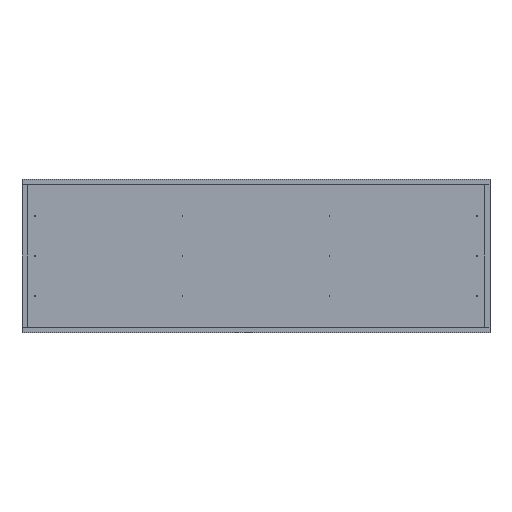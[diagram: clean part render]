
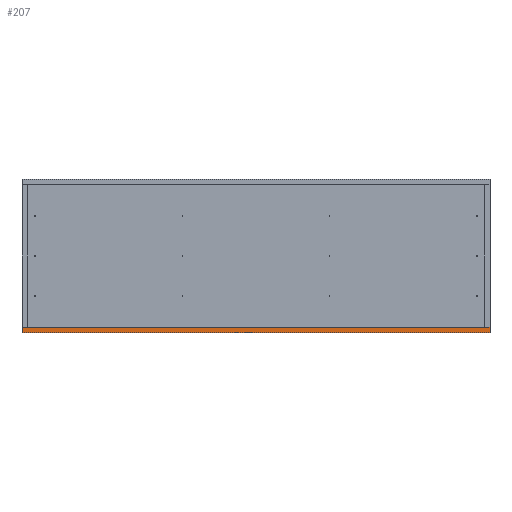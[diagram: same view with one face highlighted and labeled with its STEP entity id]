
A CAD part, left-side view. The second image highlights one B-rep face of the part: STEP entity #207.
In plain terms, the highlighted planar face has unit normal (-1, 0, 0).
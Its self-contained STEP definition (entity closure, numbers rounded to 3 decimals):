
#207 = ADVANCED_FACE('',(#208),#222,.F.);
#208 = FACE_BOUND('',#209,.F.);
#209 = EDGE_LOOP('',(#210,#245,#273,#301));
#210 = ORIENTED_EDGE('',*,*,#211,.F.);
#211 = EDGE_CURVE('',#212,#214,#216,.T.);
#212 = VERTEX_POINT('',#213);
#213 = CARTESIAN_POINT('',(0.,0.,0.));
#214 = VERTEX_POINT('',#215);
#215 = CARTESIAN_POINT('',(0.,0.,18.));
#216 = SURFACE_CURVE('',#217,(#221,#233),.PCURVE_S1.);
#217 = LINE('',#218,#219);
#218 = CARTESIAN_POINT('',(0.,0.,0.));
#219 = VECTOR('',#220,1.);
#220 = DIRECTION('',(0.,0.,1.));
#221 = PCURVE('',#222,#227);
#222 = PLANE('',#223);
#223 = AXIS2_PLACEMENT_3D('',#224,#225,#226);
#224 = CARTESIAN_POINT('',(0.,0.,0.));
#225 = DIRECTION('',(1.,0.,-0.));
#226 = DIRECTION('',(0.,0.,1.));
#227 = DEFINITIONAL_REPRESENTATION('',(#228),#232);
#228 = LINE('',#229,#230);
#229 = CARTESIAN_POINT('',(0.,0.));
#230 = VECTOR('',#231,1.);
#231 = DIRECTION('',(1.,0.));
#232 = ( GEOMETRIC_REPRESENTATION_CONTEXT(2) 
PARAMETRIC_REPRESENTATION_CONTEXT() REPRESENTATION_CONTEXT('2D SPACE',''
  ) );
#233 = PCURVE('',#234,#239);
#234 = PLANE('',#235);
#235 = AXIS2_PLACEMENT_3D('',#236,#237,#238);
#236 = CARTESIAN_POINT('',(0.,0.,0.));
#237 = DIRECTION('',(-0.,1.,0.));
#238 = DIRECTION('',(0.,0.,1.));
#239 = DEFINITIONAL_REPRESENTATION('',(#240),#244);
#240 = LINE('',#241,#242);
#241 = CARTESIAN_POINT('',(0.,0.));
#242 = VECTOR('',#243,1.);
#243 = DIRECTION('',(1.,0.));
#244 = ( GEOMETRIC_REPRESENTATION_CONTEXT(2) 
PARAMETRIC_REPRESENTATION_CONTEXT() REPRESENTATION_CONTEXT('2D SPACE',''
  ) );
#245 = ORIENTED_EDGE('',*,*,#246,.T.);
#246 = EDGE_CURVE('',#212,#247,#249,.T.);
#247 = VERTEX_POINT('',#248);
#248 = CARTESIAN_POINT('',(0.,1525.,0.));
#249 = SURFACE_CURVE('',#250,(#254,#261),.PCURVE_S1.);
#250 = LINE('',#251,#252);
#251 = CARTESIAN_POINT('',(0.,0.,0.));
#252 = VECTOR('',#253,1.);
#253 = DIRECTION('',(-0.,1.,0.));
#254 = PCURVE('',#222,#255);
#255 = DEFINITIONAL_REPRESENTATION('',(#256),#260);
#256 = LINE('',#257,#258);
#257 = CARTESIAN_POINT('',(0.,0.));
#258 = VECTOR('',#259,1.);
#259 = DIRECTION('',(0.,-1.));
#260 = ( GEOMETRIC_REPRESENTATION_CONTEXT(2) 
PARAMETRIC_REPRESENTATION_CONTEXT() REPRESENTATION_CONTEXT('2D SPACE',''
  ) );
#261 = PCURVE('',#262,#267);
#262 = PLANE('',#263);
#263 = AXIS2_PLACEMENT_3D('',#264,#265,#266);
#264 = CARTESIAN_POINT('',(0.,0.,0.));
#265 = DIRECTION('',(0.,0.,1.));
#266 = DIRECTION('',(1.,0.,-0.));
#267 = DEFINITIONAL_REPRESENTATION('',(#268),#272);
#268 = LINE('',#269,#270);
#269 = CARTESIAN_POINT('',(0.,0.));
#270 = VECTOR('',#271,1.);
#271 = DIRECTION('',(0.,1.));
#272 = ( GEOMETRIC_REPRESENTATION_CONTEXT(2) 
PARAMETRIC_REPRESENTATION_CONTEXT() REPRESENTATION_CONTEXT('2D SPACE',''
  ) );
#273 = ORIENTED_EDGE('',*,*,#274,.T.);
#274 = EDGE_CURVE('',#247,#275,#277,.T.);
#275 = VERTEX_POINT('',#276);
#276 = CARTESIAN_POINT('',(0.,1525.,18.));
#277 = SURFACE_CURVE('',#278,(#282,#289),.PCURVE_S1.);
#278 = LINE('',#279,#280);
#279 = CARTESIAN_POINT('',(0.,1525.,0.));
#280 = VECTOR('',#281,1.);
#281 = DIRECTION('',(0.,0.,1.));
#282 = PCURVE('',#222,#283);
#283 = DEFINITIONAL_REPRESENTATION('',(#284),#288);
#284 = LINE('',#285,#286);
#285 = CARTESIAN_POINT('',(0.,-1525.));
#286 = VECTOR('',#287,1.);
#287 = DIRECTION('',(1.,0.));
#288 = ( GEOMETRIC_REPRESENTATION_CONTEXT(2) 
PARAMETRIC_REPRESENTATION_CONTEXT() REPRESENTATION_CONTEXT('2D SPACE',''
  ) );
#289 = PCURVE('',#290,#295);
#290 = PLANE('',#291);
#291 = AXIS2_PLACEMENT_3D('',#292,#293,#294);
#292 = CARTESIAN_POINT('',(0.,1525.,0.));
#293 = DIRECTION('',(-0.,1.,0.));
#294 = DIRECTION('',(0.,0.,1.));
#295 = DEFINITIONAL_REPRESENTATION('',(#296),#300);
#296 = LINE('',#297,#298);
#297 = CARTESIAN_POINT('',(0.,0.));
#298 = VECTOR('',#299,1.);
#299 = DIRECTION('',(1.,0.));
#300 = ( GEOMETRIC_REPRESENTATION_CONTEXT(2) 
PARAMETRIC_REPRESENTATION_CONTEXT() REPRESENTATION_CONTEXT('2D SPACE',''
  ) );
#301 = ORIENTED_EDGE('',*,*,#302,.F.);
#302 = EDGE_CURVE('',#214,#275,#303,.T.);
#303 = SURFACE_CURVE('',#304,(#308,#315),.PCURVE_S1.);
#304 = LINE('',#305,#306);
#305 = CARTESIAN_POINT('',(0.,0.,18.));
#306 = VECTOR('',#307,1.);
#307 = DIRECTION('',(-0.,1.,0.));
#308 = PCURVE('',#222,#309);
#309 = DEFINITIONAL_REPRESENTATION('',(#310),#314);
#310 = LINE('',#311,#312);
#311 = CARTESIAN_POINT('',(18.,0.));
#312 = VECTOR('',#313,1.);
#313 = DIRECTION('',(0.,-1.));
#314 = ( GEOMETRIC_REPRESENTATION_CONTEXT(2) 
PARAMETRIC_REPRESENTATION_CONTEXT() REPRESENTATION_CONTEXT('2D SPACE',''
  ) );
#315 = PCURVE('',#316,#321);
#316 = PLANE('',#317);
#317 = AXIS2_PLACEMENT_3D('',#318,#319,#320);
#318 = CARTESIAN_POINT('',(0.,0.,18.));
#319 = DIRECTION('',(0.,0.,1.));
#320 = DIRECTION('',(1.,0.,-0.));
#321 = DEFINITIONAL_REPRESENTATION('',(#322),#326);
#322 = LINE('',#323,#324);
#323 = CARTESIAN_POINT('',(0.,0.));
#324 = VECTOR('',#325,1.);
#325 = DIRECTION('',(0.,1.));
#326 = ( GEOMETRIC_REPRESENTATION_CONTEXT(2) 
PARAMETRIC_REPRESENTATION_CONTEXT() REPRESENTATION_CONTEXT('2D SPACE',''
  ) );
